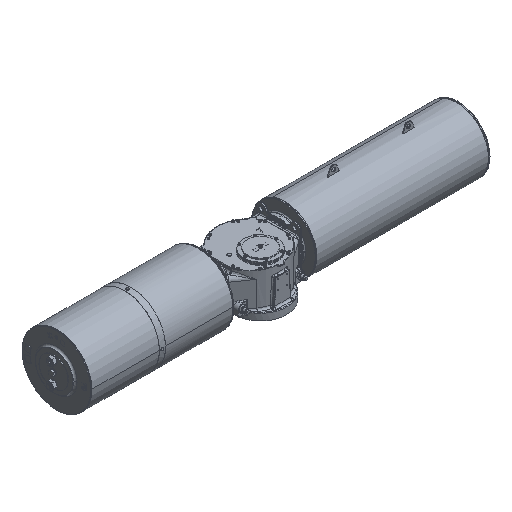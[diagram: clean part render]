
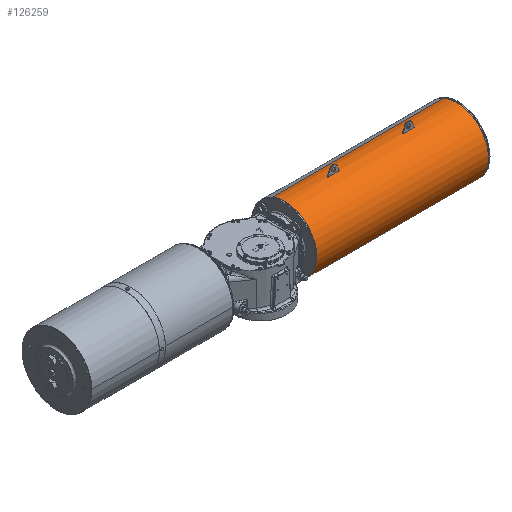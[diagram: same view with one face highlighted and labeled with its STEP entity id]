
A CAD part, isometric view. The second image highlights one B-rep face of the part: STEP entity #126259.
In plain terms, the highlighted cylindrical face has radius 340 mm (diameter 680 mm), a partial arc.
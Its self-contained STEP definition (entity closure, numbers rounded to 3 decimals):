
#348 = DIRECTION ( 'NONE',  ( 0., -0.402, -0.916 ) ) ;
#412 = EDGE_LOOP ( 'NONE', ( #139980, #98529, #94805, #53258 ) ) ;
#1359 = CARTESIAN_POINT ( 'NONE',  ( 1038., 208., 507.963 ) ) ;
#2004 = FACE_BOUND ( 'NONE', #75242, .T. ) ;
#2902 = CIRCLE ( 'NONE', #43983, 340. ) ;
#3738 = VERTEX_POINT ( 'NONE', #24046 ) ;
#3967 = EDGE_CURVE ( 'NONE', #53316, #113680, #100397, .T. ) ;
#4819 = VERTEX_POINT ( 'NONE', #103148 ) ;
#8653 = DIRECTION ( 'NONE',  ( -1., 0., 0. ) ) ;
#8969 = CIRCLE ( 'NONE', #115895, 340. ) ;
#9687 = ORIENTED_EDGE ( 'NONE', *, *, #93745, .F. ) ;
#10192 = ORIENTED_EDGE ( 'NONE', *, *, #70456, .T. ) ;
#10670 = AXIS2_PLACEMENT_3D ( 'NONE', #51542, #126273, #127652 ) ;
#11001 = VECTOR ( 'NONE', #22093, 1000. ) ;
#11497 = LINE ( 'NONE', #45736, #41206 ) ;
#13465 = ORIENTED_EDGE ( 'NONE', *, *, #26059, .T. ) ;
#15293 = AXIS2_PLACEMENT_3D ( 'NONE', #129992, #63220, #348 ) ;
#16801 = CARTESIAN_POINT ( 'NONE',  ( 1838., 203., 508. ) ) ;
#18420 = EDGE_CURVE ( 'NONE', #78740, #138963, #49570, .T. ) ;
#18650 = VECTOR ( 'NONE', #50605, 1000. ) ;
#20541 = DIRECTION ( 'NONE',  ( 0., 0., 1. ) ) ;
#20725 = DIRECTION ( 'NONE',  ( 0., 0.402, 0.916 ) ) ;
#21615 = ORIENTED_EDGE ( 'NONE', *, *, #105260, .F. ) ;
#22021 = CARTESIAN_POINT ( 'NONE',  ( 1838., 208., 507.963 ) ) ;
#22093 = DIRECTION ( 'NONE',  ( 1., 0., 0. ) ) ;
#22245 = CIRCLE ( 'NONE', #120083, 340. ) ;
#22693 = ORIENTED_EDGE ( 'NONE', *, *, #41316, .F. ) ;
#22738 = FACE_BOUND ( 'NONE', #110729, .T. ) ;
#24046 = CARTESIAN_POINT ( 'NONE',  ( 462.615, 66.339, -143.326 ) ) ;
#25824 = VERTEX_POINT ( 'NONE', #85318 ) ;
#26059 = EDGE_CURVE ( 'NONE', #132712, #66851, #106344, .T. ) ;
#27544 = DIRECTION ( 'NONE',  ( 0., 0., -1. ) ) ;
#32554 = VECTOR ( 'NONE', #61926, 1000. ) ;
#33673 = DIRECTION ( 'NONE',  ( -1., 0., 0. ) ) ;
#34485 = CARTESIAN_POINT ( 'NONE',  ( 918., 198., 507.963 ) ) ;
#35017 = CIRCLE ( 'NONE', #105619, 340. ) ;
#36794 = VERTEX_POINT ( 'NONE', #16801 ) ;
#37648 = EDGE_CURVE ( 'NONE', #58034, #135001, #103983, .T. ) ;
#38573 = ORIENTED_EDGE ( 'NONE', *, *, #76617, .F. ) ;
#40778 = DIRECTION ( 'NONE',  ( 0., 1., 0. ) ) ;
#41206 = VECTOR ( 'NONE', #111273, 1000. ) ;
#41316 = EDGE_CURVE ( 'NONE', #4819, #79266, #8969, .T. ) ;
#42435 = EDGE_CURVE ( 'NONE', #66331, #3738, #22245, .T. ) ;
#43504 = LINE ( 'NONE', #53533, #11001 ) ;
#43983 = AXIS2_PLACEMENT_3D ( 'NONE', #137863, #93820, #27544 ) ;
#45736 = CARTESIAN_POINT ( 'NONE',  ( 2298., 66.339, -143.326 ) ) ;
#46648 = VECTOR ( 'NONE', #48250, 1000. ) ;
#46813 = VERTEX_POINT ( 'NONE', #1359 ) ;
#48250 = DIRECTION ( 'NONE',  ( -1., 0., 0. ) ) ;
#49453 = EDGE_CURVE ( 'NONE', #138963, #66331, #68948, .T. ) ;
#49570 = CIRCLE ( 'NONE', #63243, 340. ) ;
#49827 = CARTESIAN_POINT ( 'NONE',  ( 1718., 198., 507.963 ) ) ;
#50605 = DIRECTION ( 'NONE',  ( 1., 0., 0. ) ) ;
#51542 = CARTESIAN_POINT ( 'NONE',  ( 1838., 203., 168. ) ) ;
#51869 = EDGE_CURVE ( 'NONE', #132712, #36794, #97208, .T. ) ;
#53258 = ORIENTED_EDGE ( 'NONE', *, *, #115079, .F. ) ;
#53316 = VERTEX_POINT ( 'NONE', #103712 ) ;
#53533 = CARTESIAN_POINT ( 'NONE',  ( 2298., 198., 507.963 ) ) ;
#54117 = ORIENTED_EDGE ( 'NONE', *, *, #37648, .F. ) ;
#57168 = VERTEX_POINT ( 'NONE', #59420 ) ;
#58034 = VERTEX_POINT ( 'NONE', #22021 ) ;
#59420 = CARTESIAN_POINT ( 'NONE',  ( 918., 208., 507.963 ) ) ;
#61731 = ORIENTED_EDGE ( 'NONE', *, *, #51869, .F. ) ;
#61926 = DIRECTION ( 'NONE',  ( -1., 0., 0. ) ) ;
#62647 = CARTESIAN_POINT ( 'NONE',  ( 2298., 208., 507.963 ) ) ;
#63220 = DIRECTION ( 'NONE',  ( -1., 0., 0. ) ) ;
#63243 = AXIS2_PLACEMENT_3D ( 'NONE', #64268, #84227, #20725 ) ;
#64268 = CARTESIAN_POINT ( 'NONE',  ( 2293.385, 203., 168. ) ) ;
#66235 = FACE_OUTER_BOUND ( 'NONE', #412, .T. ) ;
#66331 = VERTEX_POINT ( 'NONE', #66458 ) ;
#66458 = CARTESIAN_POINT ( 'NONE',  ( 462.615, 339.661, 479.326 ) ) ;
#66851 = VERTEX_POINT ( 'NONE', #49827 ) ;
#68948 = LINE ( 'NONE', #134351, #46648 ) ;
#70456 = EDGE_CURVE ( 'NONE', #57168, #46813, #81997, .T. ) ;
#73038 = AXIS2_PLACEMENT_3D ( 'NONE', #118656, #98751, #75253 ) ;
#75242 = EDGE_LOOP ( 'NONE', ( #61731, #13465, #79170, #21615, #54117, #81934 ) ) ;
#75253 = DIRECTION ( 'NONE',  ( 0., 1., 0. ) ) ;
#75669 = ORIENTED_EDGE ( 'NONE', *, *, #97955, .F. ) ;
#76617 = EDGE_CURVE ( 'NONE', #79266, #46813, #122074, .T. ) ;
#78570 = CARTESIAN_POINT ( 'NONE',  ( 1038., 203., 168. ) ) ;
#78740 = VERTEX_POINT ( 'NONE', #123441 ) ;
#79170 = ORIENTED_EDGE ( 'NONE', *, *, #140407, .F. ) ;
#79266 = VERTEX_POINT ( 'NONE', #117457 ) ;
#81515 = CARTESIAN_POINT ( 'NONE',  ( 2293.385, 339.661, 479.326 ) ) ;
#81934 = ORIENTED_EDGE ( 'NONE', *, *, #82115, .F. ) ;
#81997 = LINE ( 'NONE', #104774, #18650 ) ;
#82086 = DIRECTION ( 'NONE',  ( 0., -1., 0. ) ) ;
#82115 = EDGE_CURVE ( 'NONE', #36794, #58034, #103482, .T. ) ;
#82849 = CARTESIAN_POINT ( 'NONE',  ( 2298., 198., 507.963 ) ) ;
#82906 = CIRCLE ( 'NONE', #89727, 340. ) ;
#84227 = DIRECTION ( 'NONE',  ( -1., 0., 0. ) ) ;
#85318 = CARTESIAN_POINT ( 'NONE',  ( 1718., 203., 508. ) ) ;
#85967 = CARTESIAN_POINT ( 'NONE',  ( 1838., 198., 507.963 ) ) ;
#86879 = CARTESIAN_POINT ( 'NONE',  ( 1718., 208., 507.963 ) ) ;
#87502 = CARTESIAN_POINT ( 'NONE',  ( 1718., 203., 168. ) ) ;
#88546 = DIRECTION ( 'NONE',  ( 0., 0., 1. ) ) ;
#89727 = AXIS2_PLACEMENT_3D ( 'NONE', #103564, #136888, #40778 ) ;
#93745 = EDGE_CURVE ( 'NONE', #57168, #53316, #82906, .T. ) ;
#93820 = DIRECTION ( 'NONE',  ( 1., 0., 0. ) ) ;
#94168 = CARTESIAN_POINT ( 'NONE',  ( 1838., 203., 168. ) ) ;
#94805 = ORIENTED_EDGE ( 'NONE', *, *, #42435, .T. ) ;
#97208 = CIRCLE ( 'NONE', #10670, 340. ) ;
#97955 = EDGE_CURVE ( 'NONE', #113680, #4819, #43504, .T. ) ;
#98529 = ORIENTED_EDGE ( 'NONE', *, *, #49453, .T. ) ;
#98751 = DIRECTION ( 'NONE',  ( 1., 0., 0. ) ) ;
#99005 = AXIS2_PLACEMENT_3D ( 'NONE', #94168, #116209, #82086 ) ;
#100397 = CIRCLE ( 'NONE', #73038, 340. ) ;
#102406 = VECTOR ( 'NONE', #8653, 1000. ) ;
#103148 = CARTESIAN_POINT ( 'NONE',  ( 1038., 198., 507.963 ) ) ;
#103482 = CIRCLE ( 'NONE', #99005, 340. ) ;
#103564 = CARTESIAN_POINT ( 'NONE',  ( 918., 203., 168. ) ) ;
#103712 = CARTESIAN_POINT ( 'NONE',  ( 918., 203., 508. ) ) ;
#103983 = LINE ( 'NONE', #62647, #32554 ) ;
#104774 = CARTESIAN_POINT ( 'NONE',  ( 2298., 208., 507.963 ) ) ;
#105260 = EDGE_CURVE ( 'NONE', #135001, #25824, #2902, .T. ) ;
#105619 = AXIS2_PLACEMENT_3D ( 'NONE', #87502, #129431, #140127 ) ;
#106260 = CARTESIAN_POINT ( 'NONE',  ( 462.615, 203., 168. ) ) ;
#106344 = LINE ( 'NONE', #82849, #102406 ) ;
#109670 = CYLINDRICAL_SURFACE ( 'NONE', #15293, 340. ) ;
#110729 = EDGE_LOOP ( 'NONE', ( #38573, #22693, #75669, #112767, #9687, #10192 ) ) ;
#111273 = DIRECTION ( 'NONE',  ( -1., 0., 0. ) ) ;
#112767 = ORIENTED_EDGE ( 'NONE', *, *, #3967, .F. ) ;
#113680 = VERTEX_POINT ( 'NONE', #34485 ) ;
#115079 = EDGE_CURVE ( 'NONE', #78740, #3738, #11497, .T. ) ;
#115895 = AXIS2_PLACEMENT_3D ( 'NONE', #78570, #33673, #88546 ) ;
#116209 = DIRECTION ( 'NONE',  ( -1., 0., 0. ) ) ;
#117457 = CARTESIAN_POINT ( 'NONE',  ( 1038., 203., 508. ) ) ;
#118656 = CARTESIAN_POINT ( 'NONE',  ( 918., 203., 168. ) ) ;
#119716 = DIRECTION ( 'NONE',  ( 1., 0., 0. ) ) ;
#120083 = AXIS2_PLACEMENT_3D ( 'NONE', #106260, #119716, #128224 ) ;
#122074 = CIRCLE ( 'NONE', #131060, 340. ) ;
#123441 = CARTESIAN_POINT ( 'NONE',  ( 2293.385, 66.339, -143.326 ) ) ;
#125988 = CARTESIAN_POINT ( 'NONE',  ( 1038., 203., 168. ) ) ;
#126259 = ADVANCED_FACE ( 'NONE', ( #2004, #22738, #66235 ), #109670, .T. ) ;
#126273 = DIRECTION ( 'NONE',  ( -1., 0., 0. ) ) ;
#127652 = DIRECTION ( 'NONE',  ( 0., -1., 0. ) ) ;
#128224 = DIRECTION ( 'NONE',  ( 0., 0.402, 0.916 ) ) ;
#129431 = DIRECTION ( 'NONE',  ( 1., 0., 0. ) ) ;
#129992 = CARTESIAN_POINT ( 'NONE',  ( 2298., 203., 168. ) ) ;
#131060 = AXIS2_PLACEMENT_3D ( 'NONE', #125988, #138761, #20541 ) ;
#132712 = VERTEX_POINT ( 'NONE', #85967 ) ;
#134351 = CARTESIAN_POINT ( 'NONE',  ( 2298., 339.661, 479.326 ) ) ;
#135001 = VERTEX_POINT ( 'NONE', #86879 ) ;
#136888 = DIRECTION ( 'NONE',  ( 1., 0., 0. ) ) ;
#137863 = CARTESIAN_POINT ( 'NONE',  ( 1718., 203., 168. ) ) ;
#138761 = DIRECTION ( 'NONE',  ( -1., 0., 0. ) ) ;
#138963 = VERTEX_POINT ( 'NONE', #81515 ) ;
#139980 = ORIENTED_EDGE ( 'NONE', *, *, #18420, .T. ) ;
#140127 = DIRECTION ( 'NONE',  ( 0., 0., -1. ) ) ;
#140407 = EDGE_CURVE ( 'NONE', #25824, #66851, #35017, .T. ) ;
